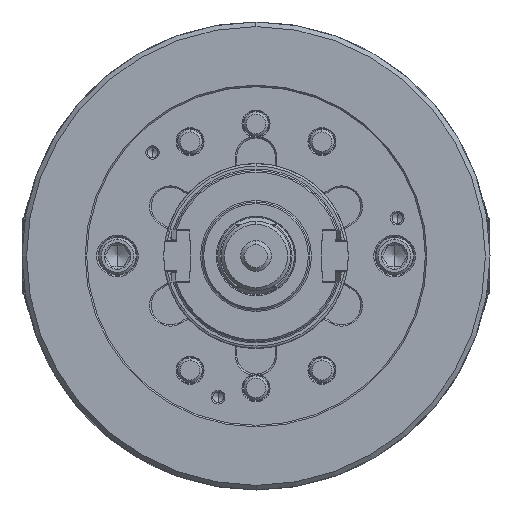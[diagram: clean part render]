
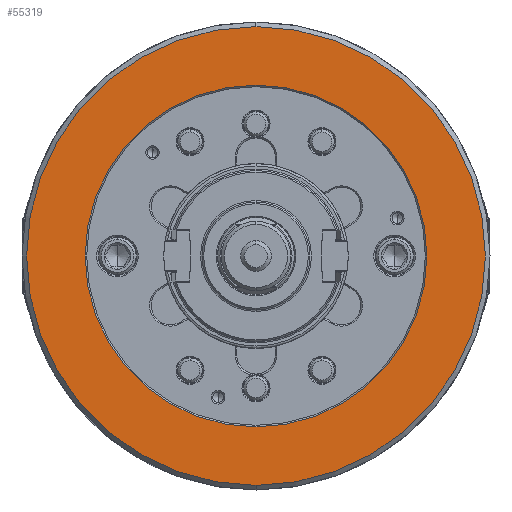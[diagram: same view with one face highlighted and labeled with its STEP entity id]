
A CAD part, left-side view. The second image highlights one B-rep face of the part: STEP entity #55319.
In plain terms, the highlighted planar face has unit normal (-1, 0, 0).
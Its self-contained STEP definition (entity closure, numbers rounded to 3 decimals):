
#3033 = CIRCLE ( 'NONE', #66506, 111. ) ;
#9099 = ORIENTED_EDGE ( 'NONE', *, *, #78756, .T. ) ;
#10893 = VERTEX_POINT ( 'NONE', #30729 ) ;
#17828 = EDGE_LOOP ( 'NONE', ( #72637, #9099 ) ) ;
#22261 = DIRECTION ( 'NONE',  ( 1., 0., 0. ) ) ;
#22488 = DIRECTION ( 'NONE',  ( 1., 0., 0. ) ) ;
#26748 = DIRECTION ( 'NONE',  ( 1., 0., 0. ) ) ;
#29910 = DIRECTION ( 'NONE',  ( 0., 0., -1. ) ) ;
#30729 = CARTESIAN_POINT ( 'NONE',  ( -106., 0., 111. ) ) ;
#30814 = FACE_BOUND ( 'NONE', #17828, .T. ) ;
#32145 = DIRECTION ( 'NONE',  ( 0., 0., -1. ) ) ;
#32585 = ORIENTED_EDGE ( 'NONE', *, *, #49367, .F. ) ;
#32916 = EDGE_CURVE ( 'NONE', #10893, #100195, #50145, .T. ) ;
#48735 = DIRECTION ( 'NONE',  ( 1., 0., 0. ) ) ;
#49367 = EDGE_CURVE ( 'NONE', #105044, #50084, #67023, .T. ) ;
#49742 = CARTESIAN_POINT ( 'NONE',  ( -106., 0., 0. ) ) ;
#50084 = VERTEX_POINT ( 'NONE', #77571 ) ;
#50145 = CIRCLE ( 'NONE', #60992, 111. ) ;
#55319 = ADVANCED_FACE ( 'NONE', ( #73372, #30814 ), #65405, .F. ) ;
#56893 = DIRECTION ( 'NONE',  ( 0., 0., -1. ) ) ;
#58525 = AXIS2_PLACEMENT_3D ( 'NONE', #100033, #22261, #56893 ) ;
#59688 = DIRECTION ( 'NONE',  ( 0., 0., -1. ) ) ;
#60801 = CARTESIAN_POINT ( 'NONE',  ( -106., 0., 0. ) ) ;
#60992 = AXIS2_PLACEMENT_3D ( 'NONE', #60801, #26748, #59688 ) ;
#65405 = PLANE ( 'NONE',  #58525 ) ;
#66506 = AXIS2_PLACEMENT_3D ( 'NONE', #107042, #99697, #29910 ) ;
#67023 = CIRCLE ( 'NONE', #99595, 149. ) ;
#72331 = CARTESIAN_POINT ( 'NONE',  ( -106., 0., -111. ) ) ;
#72637 = ORIENTED_EDGE ( 'NONE', *, *, #32916, .T. ) ;
#73372 = FACE_OUTER_BOUND ( 'NONE', #92538, .T. ) ;
#75353 = CIRCLE ( 'NONE', #95371, 149. ) ;
#75739 = ORIENTED_EDGE ( 'NONE', *, *, #77682, .F. ) ;
#77571 = CARTESIAN_POINT ( 'NONE',  ( -106., 0., 149. ) ) ;
#77682 = EDGE_CURVE ( 'NONE', #50084, #105044, #75353, .T. ) ;
#78756 = EDGE_CURVE ( 'NONE', #100195, #10893, #3033, .T. ) ;
#92538 = EDGE_LOOP ( 'NONE', ( #32585, #75739 ) ) ;
#95371 = AXIS2_PLACEMENT_3D ( 'NONE', #109384, #48735, #111082 ) ;
#95384 = CARTESIAN_POINT ( 'NONE',  ( -106., 0., -149. ) ) ;
#99595 = AXIS2_PLACEMENT_3D ( 'NONE', #49742, #22488, #32145 ) ;
#99697 = DIRECTION ( 'NONE',  ( 1., 0., 0. ) ) ;
#100033 = CARTESIAN_POINT ( 'NONE',  ( -106., -149., 0. ) ) ;
#100195 = VERTEX_POINT ( 'NONE', #72331 ) ;
#105044 = VERTEX_POINT ( 'NONE', #95384 ) ;
#107042 = CARTESIAN_POINT ( 'NONE',  ( -106., 0., 0. ) ) ;
#109384 = CARTESIAN_POINT ( 'NONE',  ( -106., 0., 0. ) ) ;
#111082 = DIRECTION ( 'NONE',  ( 0., 0., -1. ) ) ;
